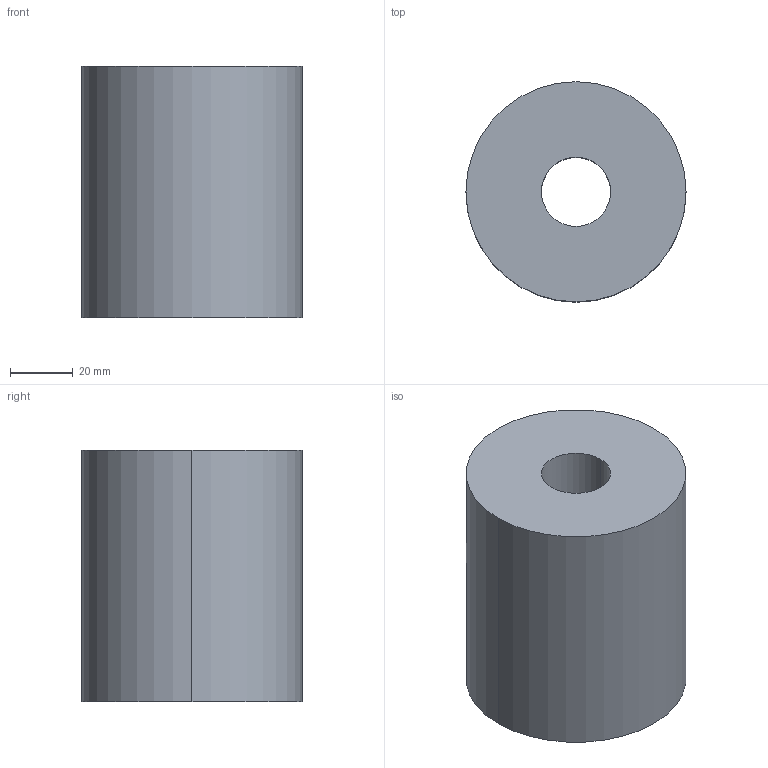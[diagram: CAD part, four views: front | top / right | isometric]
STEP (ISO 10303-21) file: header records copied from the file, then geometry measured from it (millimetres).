
FILE_DESCRIPTION(/* description */ (''),/* implementation_level */ '2;1');
FILE_NAME(/* name */ '3d_el70-22-80_03745_r00.stp',/* time_stamp */ '2011-01-10T14:15:45+09:00',/* author */ ('MISUMI'),/* organization */ (''),/* preprocessor_version */ 'ST-DEVELOPER v11',/* originating_system */ 'UGS - NX 5.0',/* authorisation */ '');
FILE_SCHEMA (('CONFIG_CONTROL_DESIGN'));
Length unit declared in the file: millimetre
Products named in the file (1): 3d_el70-22-80_03745_r00
Bounding box: 70 x 70 x 80 mm (x, y, z)
Volume: 277465.5 mm3; surface area: 30058.8 mm2
Topology: 1 solids, 1 shells, 6 faces, 12 edges, 8 vertices
Faces by surface type: cylinder 4, plane 2
Entity records: 254 total; most frequent: DIRECTION 34, CARTESIAN_POINT 27, ORIENTED_EDGE 24, AXIS2_PLACEMENT_3D 15, EDGE_CURVE 12, EDGE_LOOP 8, VERTEX_POINT 8, CIRCLE 8
